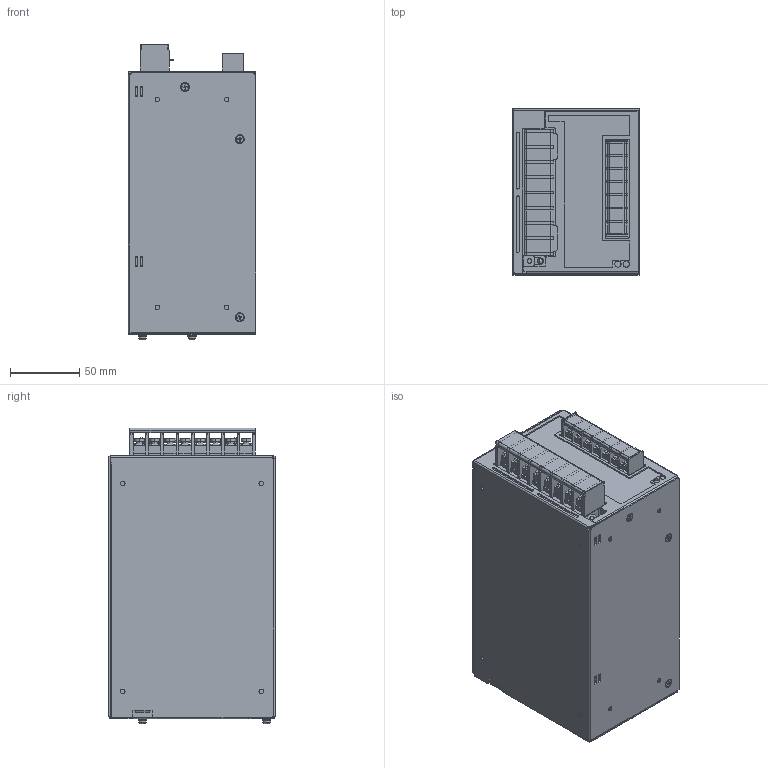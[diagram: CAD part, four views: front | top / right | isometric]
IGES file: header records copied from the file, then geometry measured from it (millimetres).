
Start section: SolidWorks IGES file using analytic representation for surfaces
Global section: file name: C:\SWS600_OUTLINE.IGS; native system: SolidWorks 2006 by SolidWorks Corporation; preprocessor: SolidWorks 2006 by SolidWorks Corporation; author: 3444matsunaga; date: 060922.165700; units: millimetre
Bounding box: 92 x 120 x 213.46 mm (x, y, z)
Surface area: 141320.7 mm2 (no closed solid volume)
Topology: 0 solids, 0 shells, 1393 faces, 15573 edges, 15564 vertices
Faces by surface type: bspline 856, revolution 537
